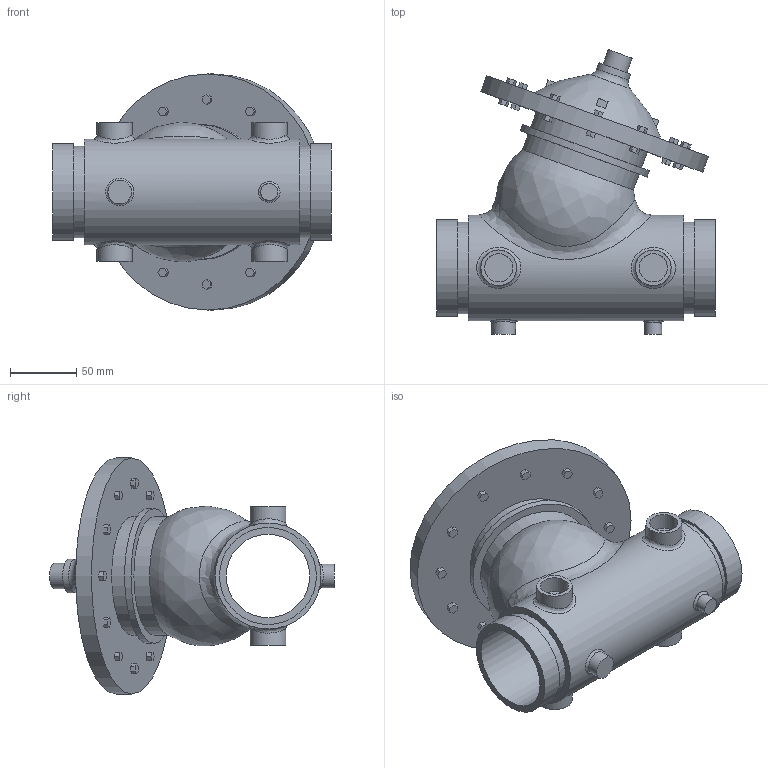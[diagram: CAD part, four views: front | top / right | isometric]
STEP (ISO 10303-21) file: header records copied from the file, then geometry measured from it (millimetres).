
FILE_DESCRIPTION(/* description */ ('VIC FP VALVE PRESSURE RELIEF SERIES 867-7UF (OGS)','CAx-IF Rec.Pracs.---Representation and Presentation of Product Manufacturing Information (PMI)---4.0---2014-10-13'),/* implementation_level */ '2;1');
FILE_NAME(/* name */ 'C:\Series 867-7UF\New folder (2)\step\Victaulic_FP-Bermad_Valve Pressure Relief_Series 867-7UF (OGS)\Victaulic_FP-Bermad_Valve Pressure Relief_Series 867-7UF (OGS)_2.5 (65).stp',/* time_stamp */ '2021-09-02T12:11:04+06:00',/* author */ ('kkamble'),/* organization */ ('Victaulic'),/* preprocessor_version */ 'ST-DEVELOPER v17.2',/* originating_system */ 'Autodesk Inventor 2019',/* authorisation */ '');
FILE_SCHEMA (('AP242_MANAGED_MODEL_BASED_3D_ENGINEERING_MIM_LF { 1 0 10303 442 1 1 4 }'));
Length unit declared in the file: inch
Products named in the file (1): 867-7UF-02.5
Bounding box: 210.06 x 214.53 x 177.8 mm (x, y, z)
Volume: 1380168.8 mm3; surface area: 183637.5 mm2
Topology: 1 solids, 1 shells, 238 faces, 598 edges, 407 vertices
Faces by surface type: plane 206, cylinder 22, bspline 9, torus 1
Full cylindrical faces by diameter (mm): 12.7 x1, 17.78 x1, 19.05 x1, 21.336 x4, 25.4 x1, 26.873 x4, 62.713 x1, 69.088 x2, 73.025 x2, 79.756 x1, 88.9 x2, 101.6 x1, 177.8 x1
Entity records: 8515 total; most frequent: CARTESIAN_POINT 2396, ORIENTED_EDGE 1204, DIRECTION 1128, EDGE_CURVE 602, LINE 480, VECTOR 480, VERTEX_POINT 411, AXIS2_PLACEMENT_3D 324
